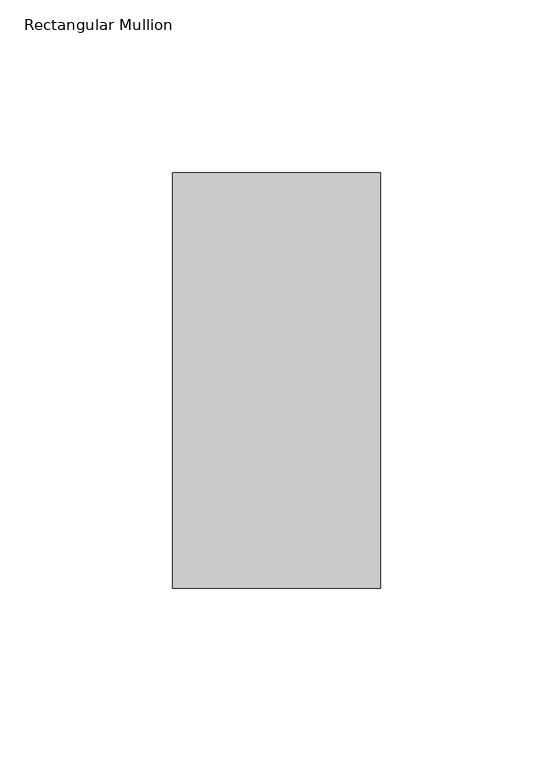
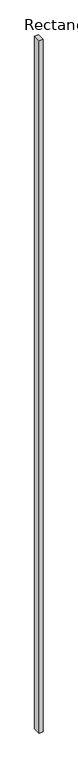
"""IFC4 building model written with IfcOpenShell, lengths in millimetres: member geometry, Rectangular Mullion : Terça."""

from ifc_helpers import new_model, si_unit, frame, origin, place, context, project, spatial, polyline, outline, extrude, source, transform, mapped, element, save


def rectangular_mullion_bc0b2bed(model_context):
    return source(origin(), model_context, "Body", "SweptSolid", [
        extrude(outline(polyline([(0.0, -120.0), (-60.0, -120.0), (-60.0, 0.0), (0.0, 0.0), (0.0, -120.0)])), frame((0.0, 0.0, -11499.6172534), z_axis=(0.0, 0.0, 1.0), x_axis=(1.0, 0.0, 0.0)), (0.0, 0.0, 1.0), 11499.6172534),
    ])


if __name__ == "__main__":
    model = new_model("IFC4")
    model_context = context("Model", 3, world=origin())
    ifc_project = project(units=[si_unit("LENGTHUNIT", "METRE", prefix="MILLI")], contexts=[model_context])
    site = spatial("IfcSite", under=ifc_project)
    building = spatial("IfcBuilding", under=site)
    placement = place(None, origin())
    rectangular_mullion_shape = rectangular_mullion_bc0b2bed(model_context)
    element("IfcMember", 1, ObjectType="Rectangular Mullion : Terça", at=placement, inside=building, context=model_context, shape_type="MappedRepresentation", body=[
        mapped(rectangular_mullion_shape, transform((0.0, 0.0, 0.0), x_axis=(1.0, 0.0, 0.0), y_axis=(0.0, 1.0, 0.0), z_axis=(0.0, 0.0, 1.0))),
    ])
    save(model, "model.ifc")
